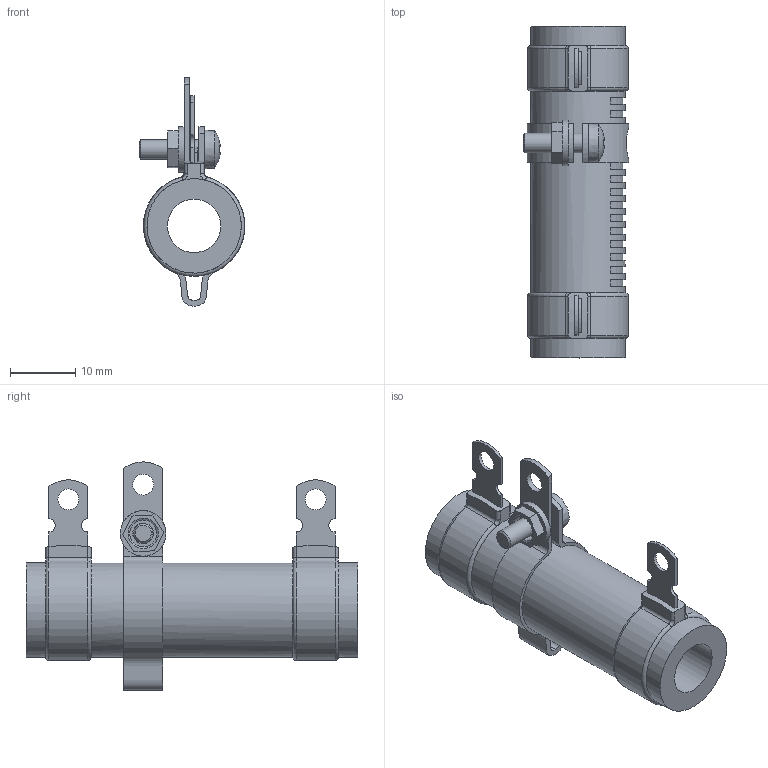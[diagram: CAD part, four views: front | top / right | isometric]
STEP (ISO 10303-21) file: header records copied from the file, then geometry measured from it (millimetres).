
FILE_DESCRIPTION(/* description */ (''),/* implementation_level */ '2;1');
FILE_NAME(/* name */ 'C:\_Vault\Dati\CATALOGO\RCA-RSA\R 25-1000\3D\RCAR 25.stp',/* time_stamp */ '2014-03-18T18:02:07+01:00',/* author */ ('stefano'),/* organization */ (''),/* preprocessor_version */ 'ST-DEVELOPER v15.2',/* originating_system */ 'Autodesk Inventor 2014',/* authorisation */ '');
FILE_SCHEMA (('AUTOMOTIVE_DESIGN { 1 0 10303 214 3 1 1 }'));
Length unit declared in the file: millimetre
Products named in the file (1): RCAR 25
Bounding box: 16.25 x 51 x 35.09 mm (x, y, z)
Volume: 6605 mm3; surface area: 5108.3 mm2
Topology: 1 solids, 1 shells, 217 faces, 546 edges, 351 vertices
Faces by surface type: plane 122, cylinder 59, cone 18, torus 13, bspline 4, sphere 1
Full cylindrical faces by diameter (mm): 2.75 x1, 3 x1, 3.2 x5, 4.134 x1, 7 x1, 8.2 x1, 14.5 x3
Entity records: 6873 total; most frequent: CARTESIAN_POINT 1430, DIRECTION 1111, ORIENTED_EDGE 1028, EDGE_CURVE 514, AXIS2_PLACEMENT_3D 424, VERTEX_POINT 341, EDGE_LOOP 271, LINE 263
